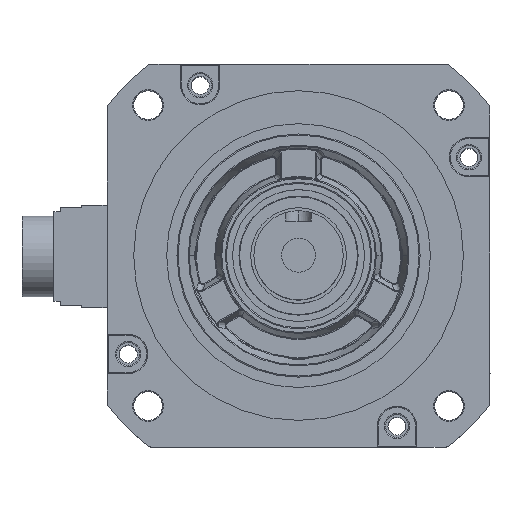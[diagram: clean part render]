
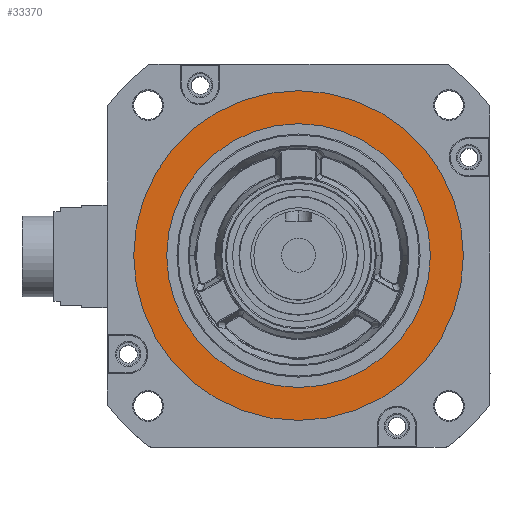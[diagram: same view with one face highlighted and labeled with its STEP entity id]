
A CAD part, top view. The second image highlights one B-rep face of the part: STEP entity #33370.
In plain terms, the highlighted planar face has unit normal (0, 0, 1).
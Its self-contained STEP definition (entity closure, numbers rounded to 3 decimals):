
#21731=CARTESIAN_POINT('Vertex',(68.644,3.946,131.604)) ;
#21738=CARTESIAN_POINT('Vertex',(-86.356,3.946,131.604)) ;
#21741=CARTESIAN_POINT('Axis2P3D Location',(-8.856,3.946,131.604)) ;
#21753=CARTESIAN_POINT('Axis2P3D Location',(-8.856,3.946,131.604)) ;
#33343=CARTESIAN_POINT('Axis2P3D Location',(-8.856,3.946,131.604)) ;
#33352=CARTESIAN_POINT('Axis2P3D Location',(-8.856,3.946,131.604)) ;
#33356=CARTESIAN_POINT('Vertex',(-70.856,3.946,131.604)) ;
#33358=CARTESIAN_POINT('Vertex',(53.144,3.946,131.604)) ;
#33361=CARTESIAN_POINT('Axis2P3D Location',(-8.856,3.946,131.604)) ;
#21742=DIRECTION('Axis2P3D Direction',(0.,0.,1.)) ;
#21754=DIRECTION('Axis2P3D Direction',(0.,0.,1.)) ;
#33344=DIRECTION('Axis2P3D Direction',(0.,0.,1.)) ;
#33345=DIRECTION('Axis2P3D XDirection',(1.,0.,0.)) ;
#33353=DIRECTION('Axis2P3D Direction',(0.,0.,1.)) ;
#33362=DIRECTION('Axis2P3D Direction',(0.,0.,1.)) ;
#21743=AXIS2_PLACEMENT_3D('Circle Axis2P3D',#21741,#21742,$) ;
#21755=AXIS2_PLACEMENT_3D('Circle Axis2P3D',#21753,#21754,$) ;
#33346=AXIS2_PLACEMENT_3D('Plane Axis2P3D',#33343,#33344,#33345) ;
#33354=AXIS2_PLACEMENT_3D('Circle Axis2P3D',#33352,#33353,$) ;
#33363=AXIS2_PLACEMENT_3D('Circle Axis2P3D',#33361,#33362,$) ;
#33349=ORIENTED_EDGE('',*,*,#21745,.T.) ;
#33350=ORIENTED_EDGE('',*,*,#21757,.T.) ;
#33367=ORIENTED_EDGE('',*,*,#33360,.F.) ;
#33368=ORIENTED_EDGE('',*,*,#33365,.F.) ;
#33369=FACE_BOUND('',#33366,.T.) ;
#33370=ADVANCED_FACE('\X2\96F64EF651E04F554F53\X0\',(#33351,#33369),#33347,.T.) ;
#21744=CIRCLE('generated circle',#21743,77.5) ;
#21756=CIRCLE('generated circle',#21755,77.5) ;
#33355=CIRCLE('generated circle',#33354,62.) ;
#33364=CIRCLE('generated circle',#33363,62.) ;
#21745=EDGE_CURVE('',#21732,#21739,#21744,.T.) ;
#21757=EDGE_CURVE('',#21739,#21732,#21756,.T.) ;
#33360=EDGE_CURVE('',#33357,#33359,#33355,.T.) ;
#33365=EDGE_CURVE('',#33359,#33357,#33364,.T.) ;
#33348=EDGE_LOOP('',(#33349,#33350)) ;
#33366=EDGE_LOOP('',(#33367,#33368)) ;
#33351=FACE_OUTER_BOUND('',#33348,.T.) ;
#33347=PLANE('Plane',#33346) ;
#21732=VERTEX_POINT('',#21731) ;
#21739=VERTEX_POINT('',#21738) ;
#33357=VERTEX_POINT('',#33356) ;
#33359=VERTEX_POINT('',#33358) ;
